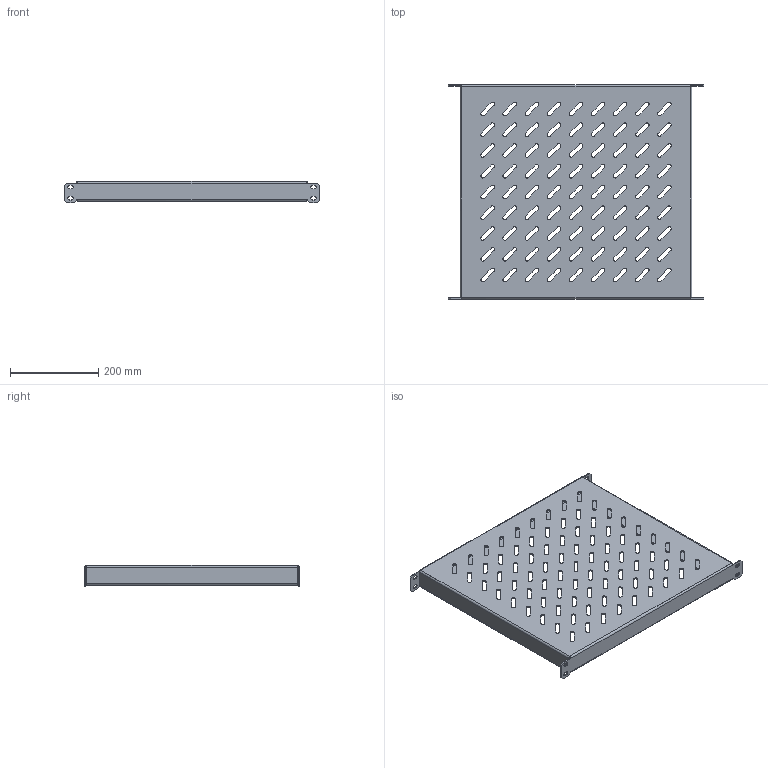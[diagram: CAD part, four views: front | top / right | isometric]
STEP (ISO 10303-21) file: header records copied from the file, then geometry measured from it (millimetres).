
FILE_DESCRIPTION (( 'STEP AP214' ), '1' );
FILE_NAME ('SH 60.60 F Ïîëêà óñèëåííàÿ.STEP', '2025-11-11T19:28:09', ( '' ), ( '' ), 'SwSTEP 2.0', 'SolidWorks 2022', '' );
FILE_SCHEMA (( 'AUTOMOTIVE_DESIGN' ));
Length unit declared in the file: millimetre
Products named in the file (1): SH 60.60 F Полка усиленная
Bounding box: 577.99 x 485 x 48 mm (x, y, z)
Volume: 907154.4 mm3; surface area: 750688.9 mm2
Topology: 1 solids, 1 shells, 525 faces, 1523 edges, 994 vertices
Faces by surface type: cylinder 275, plane 234, bspline 16
Entity records: 18761 total; most frequent: CARTESIAN_POINT 4147, ORIENTED_EDGE 3046, DIRECTION 3029, EDGE_CURVE 1523, AXIS2_PLACEMENT_3D 1028, VERTEX_POINT 994, VECTOR 973, LINE 973
